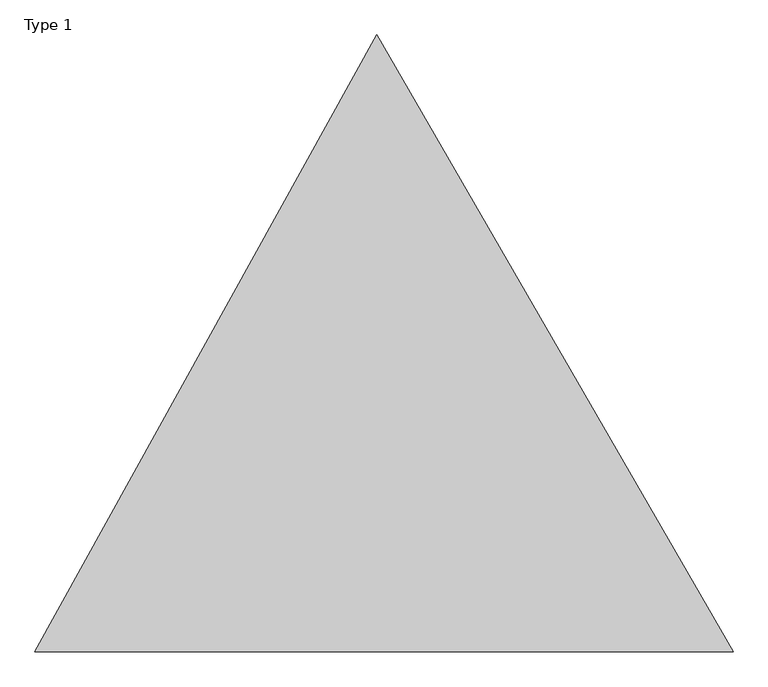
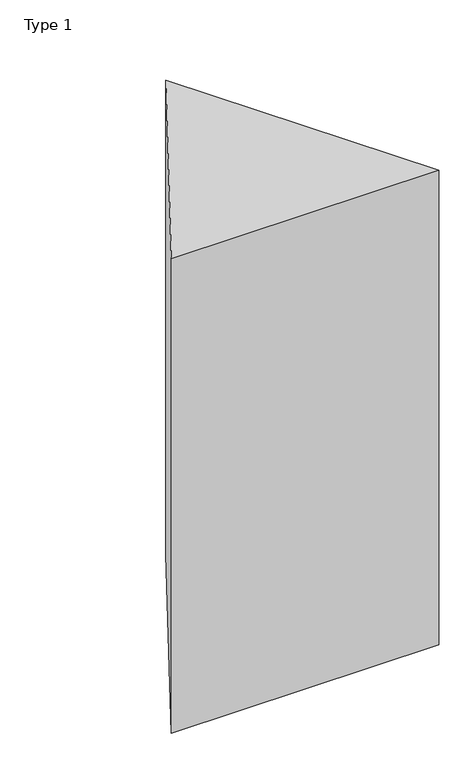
"""IFC4 building model written with IfcOpenShell, lengths in millimetres: proxy geometry, test GM family without IfcExportAs : Type 1."""

from ifc_helpers import new_model, si_unit, origin, origin_with_axes, place, context, project, spatial, polyline, outline, extrude, source, transform, mapped, element, save


def type_1_9a703d4e(model_context):
    return source(origin(), model_context, "Body", "SweptSolid", [
        extrude(outline(polyline([(-783.6581498, -582.3911161), (0.0, 831.36561), (816.3418502, -582.3911161), (-783.6581498, -582.3911161)])), origin_with_axes(), (0.0, 0.0, 1.0), 3000.0),
    ])


if __name__ == "__main__":
    model = new_model("IFC4")
    model_context = context("Model", 3, world=origin())
    ifc_project = project(units=[si_unit("LENGTHUNIT", "METRE", prefix="MILLI")], contexts=[model_context])
    site = spatial("IfcSite", under=ifc_project)
    building = spatial("IfcBuilding", under=site)
    placement = place(None, origin())
    type_1_shape = type_1_9a703d4e(model_context)
    element("IfcBuildingElementProxy", 1, Name="test GM family without IfcExportAs : Type 1", ObjectType="test GM family without IfcExportAs : Type 1", at=placement, inside=building, context=model_context, shape_type="MappedRepresentation", body=[
        mapped(type_1_shape, transform((0.0, 0.0, 0.0), x_axis=(1.0, 0.0, 0.0), y_axis=(0.0, 1.0, 0.0), z_axis=(0.0, 0.0, 1.0))),
    ])
    save(model, "model.ifc")
